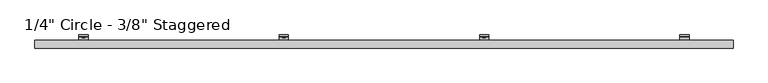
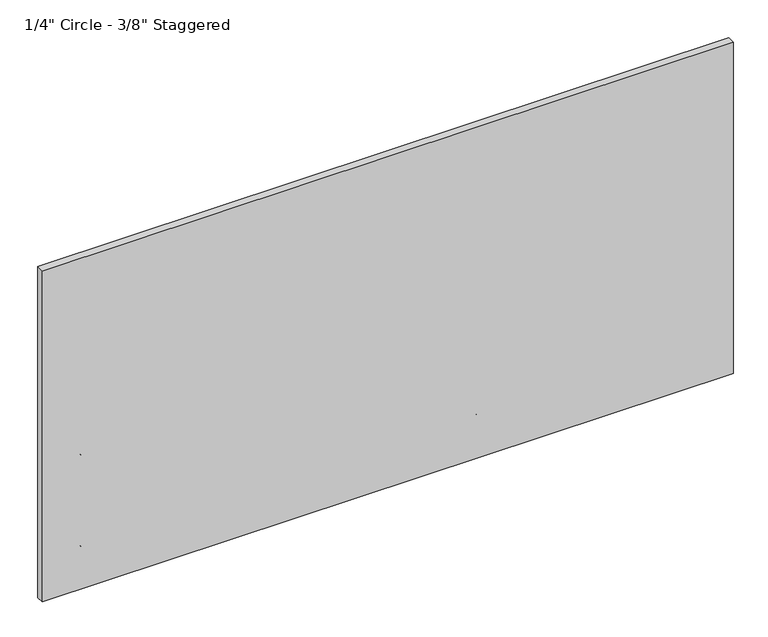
"""IFC4 building model written with IfcOpenShell, lengths in millimetres: plate geometry."""

from ifc_helpers import new_model, si_unit, point, frame, frame_2d, origin, place, context, project, spatial, polyline, circle_curve, trimmed, segment, composite_curve, outline, extrude, source, transform, mapped, element, save
from ifc_brep_helpers import plane_surface, cylinder_surface, revolved_surface, advanced_brep


def plate_0a6a2763(model_context):
    return source(origin(), model_context, "Body", "SolidModel", [
        advanced_brep(
        [(1236.096202, -47.625, 561.2468868), (1236.096202, -51.2819443, 553.5848544), (1236.096202, -89.5163624, 526.8128266), (1236.096202, -92.9330442, 530.2295084), (1236.096202, -54.3526876, 557.2437649), (1236.096202, -52.4002, 561.2469577), (1236.096202, -52.4002, 595.439572), (1236.096202, -47.625, 595.439572), (1274.196202, -47.625, 561.2468868), (1274.196202, -47.625, 595.439572), (1274.196202, -52.4002, 595.439572), (1274.196202, -52.4002, 561.2469577), (1274.196202, -54.3526876, 557.2437649), (1274.196202, -92.9330442, 530.2295084), (1274.196202, -89.5163624, 526.8128266), (1274.196202, -51.2819443, 553.5848544), (1261.8873909, -52.4002, 581.3943558), (1261.8873909, -52.4002, 575.0443558), (1245.6595307, -52.4002, 575.0443558), (1245.6595307, -52.4002, 581.3943558), (1261.8873909, -47.625, 575.0443558), (1261.8873909, -47.625, 581.3943558), (1245.6595307, -47.625, 581.3943558), (1245.6595307, -47.625, 575.0443558)],
        [
            (0, 1, circle_curve(frame((1236.096202, -57.4802202, 561.2468868), z_axis=(-1.0, 0.0, 0.0), x_axis=(0.0, -1.0, 0.0)), 9.8552202)),
            (1, 2),
            (2, 3),
            (3, 4),
            (4, 5, circle_curve(frame((1236.096202, -57.4803246, 561.2469577), z_axis=(1.0, 0.0, 0.0), x_axis=(0.0, -1.0, 0.0)), 5.0801246)),
            (5, 6),
            (6, 7),
            (7, 0),
            (8, 9),
            (9, 10),
            (10, 11),
            (11, 12, circle_curve(frame((1274.196202, -57.4803246, 561.2469577), z_axis=(-1.0, 0.0, 0.0), x_axis=(0.0, -1.0, 0.0)), 5.0801246)),
            (12, 13),
            (13, 14),
            (14, 15),
            (15, 8, circle_curve(frame((1274.196202, -57.4802202, 561.2468868), z_axis=(1.0, 0.0, 0.0), x_axis=(0.0, -1.0, 0.0)), 9.8552202)),
            (4, 12),
            (11, 5),
            (10, 6),
            (16, 17, circle_curve(frame((1261.8873909, -52.4002, 578.2193558), z_axis=(0.0, 1.0, 0.0), x_axis=(0.0, 0.0, -1.0)), 3.175)),
            (17, 18),
            (18, 19, circle_curve(frame((1245.6595307, -52.4002, 578.2193558), z_axis=(0.0, 1.0, 0.0), x_axis=(0.0, 0.0, -1.0)), 3.175)),
            (19, 16),
            (9, 7),
            (8, 0),
            (20, 21, circle_curve(frame((1261.8873909, -47.625, 578.2193558), z_axis=(0.0, -1.0, 0.0), x_axis=(0.0, 0.0, -1.0)), 3.175)),
            (21, 22),
            (22, 23, circle_curve(frame((1245.6595307, -47.625, 578.2193558), z_axis=(0.0, -1.0, 0.0), x_axis=(0.0, 0.0, -1.0)), 3.175)),
            (23, 20),
            (15, 1),
            (20, 17),
            (16, 21),
            (19, 22),
            (18, 23),
            (14, 2),
            (13, 3),
        ],
        [
            plane_surface(frame((1236.096202, -67.3354404, 561.2468868), z_axis=(-1.0, 0.0, 0.0), x_axis=(0.0, 0.0, 1.0))),
            plane_surface(frame((1274.196202, -67.3354404, 561.2468868), z_axis=(1.0, 0.0, 0.0), x_axis=(0.0, 0.0, -1.0))),
            revolved_surface(polyline([(1274.196202, -62.5604492, 561.2469577), (1236.096202, -62.5604492, 561.2469577)]), (1274.196202, -57.4803246, 561.2469577), (1.0, 0.0, 0.0)),
            plane_surface(frame((1236.096202, -52.4002, 561.2469577), z_axis=(0.0, -1.0, 0.0), x_axis=(1.0, 0.0, 0.0))),
            plane_surface(frame((1236.096202, -52.4002, 595.439572), z_axis=(0.0, 0.0, 1.0), x_axis=(1.0, 0.0, 0.0))),
            plane_surface(frame((1236.096202, -47.625, 595.439572), z_axis=(0.0, 1.0, 6.99569853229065e-12), x_axis=(1.0, 0.0, 0.0))),
            cylinder_surface(frame((1274.196202, -57.4802202, 561.2468868), z_axis=(-1.0, 0.0, 0.0), x_axis=(0.0, -1.0, 0.0)), 9.8552202),
            revolved_surface(polyline([(1261.8873909, -52.4002, 575.0443558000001), (1261.8873909, -47.625, 575.0443558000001)]), (1261.8873909, -25.6669948, 578.2193558), (0.0, -1.0, 0.0)),
            plane_surface(frame((1261.8873909, -86.677982, 581.3943558), z_axis=(0.0, 0.0, -1.0), x_axis=(0.0, 1.0, 0.0))),
            revolved_surface(polyline([(1245.6595307, -52.4002, 575.0443558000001), (1245.6595307, -47.625, 575.0443558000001)]), (1245.6595307, -25.6669948, 578.2193558), (0.0, -1.0, 0.0)),
            plane_surface(frame((1245.6595307, -86.677982, 575.0443558), z_axis=(-2.7237733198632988e-11, 0.0, 1.0), x_axis=(0.0, 1.0, 0.0))),
            plane_surface(frame((1236.096202, -51.2819443, 553.5848544), z_axis=(0.0, 0.5735764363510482, -0.8191520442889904), x_axis=(1.0, 0.0, 0.0))),
            plane_surface(frame((1236.096202, -89.5163624, 526.8128266), z_axis=(0.0, -0.7071067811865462, -0.7071067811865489), x_axis=(1.0, 0.0, 0.0))),
            plane_surface(frame((1236.096202, -92.9330442, 530.2295084), z_axis=(0.0, -0.5735764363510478, 0.8191520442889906), x_axis=(1.0, 0.0, 0.0))),
        ],
        [
            (0, [[1, 2, 3, 4, 5, 6, 7, 8]]),
            (1, [[9, 10, 11, 12, 13, 14, 15, 16]]),
            (2, [[-5, 17, -12, 18]]),
            (3, [[-6, -18, -11, 19], [20, 21, 22, 23]]),
            (4, [[-7, -19, -10, 24]]),
            (5, [[-8, -24, -9, 25], [26, 27, 28, 29]]),
            (6, [[-1, -25, -16, 30]]),
            (7, [[31, -20, 32, -26]]),
            (8, [[-32, -23, 33, -27]]),
            (9, [[-33, -22, 34, -28]]),
            (10, [[-31, -29, -34, -21]]),
            (11, [[-2, -30, -15, 35]]),
            (12, [[-3, -35, -14, 36]]),
            (13, [[-4, -36, -13, -17]]),
        ],
    ),
        extrude(outline(polyline([(578.3961989, 413.3640708), (574.0504864, 415.873069), (574.0504864, 420.8910656), (578.3961989, 423.4000639), (582.7419114, 420.8910656), (582.7419114, 415.873069), (578.3961989, 413.3640708)])), frame((0.0, -58.7607779, 0.0), z_axis=(0.0, 1.0, 0.0), x_axis=(0.0, 0.0, 1.0)), (0.0, 0.0, 1.0), 11.1357779),
        extrude(outline(composite_curve([segment(trimmed(circle_curve(frame_2d((578.4895059, 418.3820673)), 6.35), [point((578.4895059, 424.7320673))], [point((578.4895059, 412.0320673))], False, "CARTESIAN"), True, "CONTINUOUS"), segment(trimmed(circle_curve(frame_2d((578.4895059, 418.3820673)), 6.35), [point((578.4895059, 412.0320673))], [point((578.4895059, 424.7320673))], False, "CARTESIAN"), True, "CONTINUOUS")], self_intersect=False)), frame((0.0, -57.0817743, 0.0), z_axis=(0.0, 1.0, 0.0), x_axis=(0.0, 0.0, 1.0)), (0.0, 0.0, 1.0), 9.4567743),
        advanced_brep(
        [(399.3320673, -47.625, 561.2468868), (399.3320673, -51.2819443, 553.5848544), (399.3320673, -89.5163624, 526.8128266), (399.3320673, -92.9330442, 530.2295084), (399.3320673, -54.3526876, 557.2437649), (399.3320673, -52.4002, 561.2469577), (399.3320673, -52.4002, 595.439572), (399.3320673, -47.625, 595.439572), (437.4320673, -47.625, 561.2468868), (437.4320673, -47.625, 595.439572), (437.4320673, -52.4002, 595.439572), (437.4320673, -52.4002, 561.2469577), (437.4320673, -54.3526876, 557.2437649), (437.4320673, -92.9330442, 530.2295084), (437.4320673, -89.5163624, 526.8128266), (437.4320673, -51.2819443, 553.5848544), (425.1232562, -52.4002, 581.3943558), (425.1232562, -52.4002, 575.0443558), (408.895396, -52.4002, 575.0443558), (408.895396, -52.4002, 581.3943558), (425.1232562, -47.625, 575.0443558), (425.1232562, -47.625, 581.3943558), (408.895396, -47.625, 581.3943558), (408.895396, -47.625, 575.0443558)],
        [
            (0, 1, circle_curve(frame((399.3320673, -57.4802202, 561.2468868), z_axis=(-1.0, 0.0, 0.0), x_axis=(0.0, -1.0, 0.0)), 9.8552202)),
            (1, 2),
            (2, 3),
            (3, 4),
            (4, 5, circle_curve(frame((399.3320673, -57.4803246, 561.2469577), z_axis=(1.0, 0.0, 0.0), x_axis=(0.0, -1.0, 0.0)), 5.0801246)),
            (5, 6),
            (6, 7),
            (7, 0),
            (8, 9),
            (9, 10),
            (10, 11),
            (11, 12, circle_curve(frame((437.4320673, -57.4803246, 561.2469577), z_axis=(-1.0, 0.0, 0.0), x_axis=(0.0, -1.0, 0.0)), 5.0801246)),
            (12, 13),
            (13, 14),
            (14, 15),
            (15, 8, circle_curve(frame((437.4320673, -57.4802202, 561.2468868), z_axis=(1.0, 0.0, 0.0), x_axis=(0.0, -1.0, 0.0)), 9.8552202)),
            (4, 12),
            (11, 5),
            (10, 6),
            (16, 17, circle_curve(frame((425.1232562, -52.4002, 578.2193558), z_axis=(0.0, 1.0, 0.0), x_axis=(0.0, 0.0, -1.0)), 3.175)),
            (17, 18),
            (18, 19, circle_curve(frame((408.895396, -52.4002, 578.2193558), z_axis=(0.0, 1.0, 0.0), x_axis=(0.0, 0.0, -1.0)), 3.175)),
            (19, 16),
            (9, 7),
            (8, 0),
            (20, 21, circle_curve(frame((425.1232562, -47.625, 578.2193558), z_axis=(0.0, -1.0, 0.0), x_axis=(0.0, 0.0, -1.0)), 3.175)),
            (21, 22),
            (22, 23, circle_curve(frame((408.895396, -47.625, 578.2193558), z_axis=(0.0, -1.0, 0.0), x_axis=(0.0, 0.0, -1.0)), 3.175)),
            (23, 20),
            (15, 1),
            (20, 17),
            (16, 21),
            (19, 22),
            (18, 23),
            (14, 2),
            (13, 3),
        ],
        [
            plane_surface(frame((399.3320673, -67.3354404, 561.2468868), z_axis=(-1.0, 0.0, 0.0), x_axis=(0.0, 0.0, 1.0))),
            plane_surface(frame((437.4320673, -67.3354404, 561.2468868), z_axis=(1.0, 0.0, 0.0), x_axis=(0.0, 0.0, -1.0))),
            revolved_surface(polyline([(437.4320673, -62.5604492, 561.2469577), (399.3320673, -62.5604492, 561.2469577)]), (437.4320673, -57.4803246, 561.2469577), (1.0, 0.0, 0.0)),
            plane_surface(frame((399.3320673, -52.4002, 561.2469577), z_axis=(0.0, -1.0, 0.0), x_axis=(1.0, 0.0, 0.0))),
            plane_surface(frame((399.3320673, -52.4002, 595.439572), z_axis=(0.0, 0.0, 1.0), x_axis=(1.0, 0.0, 0.0))),
            plane_surface(frame((399.3320673, -47.625, 595.439572), z_axis=(0.0, 1.0, 6.99569853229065e-12), x_axis=(1.0, 0.0, 0.0))),
            cylinder_surface(frame((437.4320673, -57.4802202, 561.2468868), z_axis=(-1.0, 0.0, 0.0), x_axis=(0.0, -1.0, 0.0)), 9.8552202),
            revolved_surface(polyline([(425.1232562, -52.4002, 575.0443558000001), (425.1232562, -47.625, 575.0443558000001)]), (425.1232562, -25.6669948, 578.2193558), (0.0, -1.0, 0.0)),
            plane_surface(frame((425.1232562, -86.677982, 581.3943558), z_axis=(0.0, 0.0, -1.0), x_axis=(0.0, 1.0, 0.0))),
            revolved_surface(polyline([(408.895396, -52.4002, 575.0443558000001), (408.895396, -47.625, 575.0443558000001)]), (408.895396, -25.6669948, 578.2193558), (0.0, -1.0, 0.0)),
            plane_surface(frame((408.895396, -86.677982, 575.0443558), z_axis=(-2.7237733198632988e-11, 0.0, 1.0), x_axis=(0.0, 1.0, 0.0))),
            plane_surface(frame((399.3320673, -51.2819443, 553.5848544), z_axis=(0.0, 0.5735764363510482, -0.8191520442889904), x_axis=(1.0, 0.0, 0.0))),
            plane_surface(frame((399.3320673, -89.5163624, 526.8128266), z_axis=(0.0, -0.7071067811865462, -0.7071067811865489), x_axis=(1.0, 0.0, 0.0))),
            plane_surface(frame((399.3320673, -92.9330442, 530.2295084), z_axis=(0.0, -0.5735764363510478, 0.8191520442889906), x_axis=(1.0, 0.0, 0.0))),
        ],
        [
            (0, [[1, 2, 3, 4, 5, 6, 7, 8]]),
            (1, [[9, 10, 11, 12, 13, 14, 15, 16]]),
            (2, [[-5, 17, -12, 18]]),
            (3, [[-6, -18, -11, 19], [20, 21, 22, 23]]),
            (4, [[-7, -19, -10, 24]]),
            (5, [[-8, -24, -9, 25], [26, 27, 28, 29]]),
            (6, [[-1, -25, -16, 30]]),
            (7, [[31, -20, 32, -26]]),
            (8, [[-32, -23, 33, -27]]),
            (9, [[-33, -22, 34, -28]]),
            (10, [[-31, -29, -34, -21]]),
            (11, [[-2, -30, -15, 35]]),
            (12, [[-3, -35, -14, 36]]),
            (13, [[-4, -36, -13, -17]]),
        ],
    ),
        extrude(outline(polyline([(578.3961989, -423.4000639), (574.0504864, -420.8910656), (574.0504864, -415.873069), (578.3961989, -413.3640708), (582.7419114, -415.873069), (582.7419114, -420.8910656), (578.3961989, -423.4000639)])), frame((0.0, -58.7607779, 0.0), z_axis=(0.0, 1.0, 0.0), x_axis=(0.0, 0.0, 1.0)), (0.0, 0.0, 1.0), 11.1357779),
        extrude(outline(composite_curve([segment(trimmed(circle_curve(frame_2d((578.4895059, -418.3820673)), 6.35), [point((578.4895059, -412.0320673))], [point((578.4895059, -424.7320673))], False, "CARTESIAN"), True, "CONTINUOUS"), segment(trimmed(circle_curve(frame_2d((578.4895059, -418.3820673)), 6.35), [point((578.4895059, -424.7320673))], [point((578.4895059, -412.0320673))], False, "CARTESIAN"), True, "CONTINUOUS")], self_intersect=False)), frame((0.0, -57.0817743, 0.0), z_axis=(0.0, 1.0, 0.0), x_axis=(0.0, 0.0, 1.0)), (0.0, 0.0, 1.0), 9.4567743),
        advanced_brep(
        [(-437.4320673, -47.625, 561.2468868), (-437.4320673, -51.2819443, 553.5848544), (-437.4320673, -89.5163624, 526.8128266), (-437.4320673, -92.9330442, 530.2295084), (-437.4320673, -54.3526876, 557.2437649), (-437.4320673, -52.4002, 561.2469577), (-437.4320673, -52.4002, 595.439572), (-437.4320673, -47.625, 595.439572), (-399.3320673, -47.625, 561.2468868), (-399.3320673, -47.625, 595.439572), (-399.3320673, -52.4002, 595.439572), (-399.3320673, -52.4002, 561.2469577), (-399.3320673, -54.3526876, 557.2437649), (-399.3320673, -92.9330442, 530.2295084), (-399.3320673, -89.5163624, 526.8128266), (-399.3320673, -51.2819443, 553.5848544), (-411.6408784, -52.4002, 581.3943558), (-411.6408784, -52.4002, 575.0443558), (-427.8687386, -52.4002, 575.0443558), (-427.8687386, -52.4002, 581.3943558), (-411.6408784, -47.625, 575.0443558), (-411.6408784, -47.625, 581.3943558), (-427.8687386, -47.625, 581.3943558), (-427.8687386, -47.625, 575.0443558)],
        [
            (0, 1, circle_curve(frame((-437.4320673, -57.4802202, 561.2468868), z_axis=(-1.0, 0.0, 0.0), x_axis=(0.0, -1.0, 0.0)), 9.8552202)),
            (1, 2),
            (2, 3),
            (3, 4),
            (4, 5, circle_curve(frame((-437.4320673, -57.4803246, 561.2469577), z_axis=(1.0, 0.0, 0.0), x_axis=(0.0, -1.0, 0.0)), 5.0801246)),
            (5, 6),
            (6, 7),
            (7, 0),
            (8, 9),
            (9, 10),
            (10, 11),
            (11, 12, circle_curve(frame((-399.3320673, -57.4803246, 561.2469577), z_axis=(-1.0, 0.0, 0.0), x_axis=(0.0, -1.0, 0.0)), 5.0801246)),
            (12, 13),
            (13, 14),
            (14, 15),
            (15, 8, circle_curve(frame((-399.3320673, -57.4802202, 561.2468868), z_axis=(1.0, 0.0, 0.0), x_axis=(0.0, -1.0, 0.0)), 9.8552202)),
            (4, 12),
            (11, 5),
            (10, 6),
            (16, 17, circle_curve(frame((-411.6408784, -52.4002, 578.2193558), z_axis=(0.0, 1.0, 0.0), x_axis=(0.0, 0.0, -1.0)), 3.175)),
            (17, 18),
            (18, 19, circle_curve(frame((-427.8687386, -52.4002, 578.2193558), z_axis=(0.0, 1.0, 0.0), x_axis=(0.0, 0.0, -1.0)), 3.175)),
            (19, 16),
            (9, 7),
            (8, 0),
            (20, 21, circle_curve(frame((-411.6408784, -47.625, 578.2193558), z_axis=(0.0, -1.0, 0.0), x_axis=(0.0, 0.0, -1.0)), 3.175)),
            (21, 22),
            (22, 23, circle_curve(frame((-427.8687386, -47.625, 578.2193558), z_axis=(0.0, -1.0, 0.0), x_axis=(0.0, 0.0, -1.0)), 3.175)),
            (23, 20),
            (15, 1),
            (20, 17),
            (16, 21),
            (19, 22),
            (18, 23),
            (14, 2),
            (13, 3),
        ],
        [
            plane_surface(frame((-437.4320673, -67.3354404, 561.2468868), z_axis=(-1.0, 0.0, 0.0), x_axis=(0.0, 0.0, 1.0))),
            plane_surface(frame((-399.3320673, -67.3354404, 561.2468868), z_axis=(1.0, 0.0, 0.0), x_axis=(0.0, 0.0, -1.0))),
            revolved_surface(polyline([(-399.3320673, -62.5604492, 561.2469577), (-437.4320673, -62.5604492, 561.2469577)]), (-399.3320673, -57.4803246, 561.2469577), (1.0, 0.0, 0.0)),
            plane_surface(frame((-437.4320673, -52.4002, 561.2469577), z_axis=(0.0, -1.0, 0.0), x_axis=(1.0, 0.0, 0.0))),
            plane_surface(frame((-437.4320673, -52.4002, 595.439572), z_axis=(0.0, 0.0, 1.0), x_axis=(1.0, 0.0, 0.0))),
            plane_surface(frame((-437.4320673, -47.625, 595.439572), z_axis=(0.0, 1.0, 6.99569853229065e-12), x_axis=(1.0, 0.0, 0.0))),
            cylinder_surface(frame((-399.3320673, -57.4802202, 561.2468868), z_axis=(-1.0, 0.0, 0.0), x_axis=(0.0, -1.0, 0.0)), 9.8552202),
            revolved_surface(polyline([(-411.6408784, -52.4002, 575.0443558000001), (-411.6408784, -47.625, 575.0443558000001)]), (-411.6408784, -25.6669948, 578.2193558), (0.0, -1.0, 0.0)),
            plane_surface(frame((-411.6408784, -86.677982, 581.3943558), z_axis=(0.0, 0.0, -1.0), x_axis=(0.0, 1.0, 0.0))),
            revolved_surface(polyline([(-427.8687386, -52.4002, 575.0443558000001), (-427.8687386, -47.625, 575.0443558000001)]), (-427.8687386, -25.6669948, 578.2193558), (0.0, -1.0, 0.0)),
            plane_surface(frame((-427.8687386, -86.677982, 575.0443558), z_axis=(-2.7237733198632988e-11, 0.0, 1.0), x_axis=(0.0, 1.0, 0.0))),
            plane_surface(frame((-437.4320673, -51.2819443, 553.5848544), z_axis=(0.0, 0.5735764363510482, -0.8191520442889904), x_axis=(1.0, 0.0, 0.0))),
            plane_surface(frame((-437.4320673, -89.5163624, 526.8128266), z_axis=(0.0, -0.7071067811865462, -0.7071067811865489), x_axis=(1.0, 0.0, 0.0))),
            plane_surface(frame((-437.4320673, -92.9330442, 530.2295084), z_axis=(0.0, -0.5735764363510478, 0.8191520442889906), x_axis=(1.0, 0.0, 0.0))),
        ],
        [
            (0, [[1, 2, 3, 4, 5, 6, 7, 8]]),
            (1, [[9, 10, 11, 12, 13, 14, 15, 16]]),
            (2, [[-5, 17, -12, 18]]),
            (3, [[-6, -18, -11, 19], [20, 21, 22, 23]]),
            (4, [[-7, -19, -10, 24]]),
            (5, [[-8, -24, -9, 25], [26, 27, 28, 29]]),
            (6, [[-1, -25, -16, 30]]),
            (7, [[31, -20, 32, -26]]),
            (8, [[-32, -23, 33, -27]]),
            (9, [[-33, -22, 34, -28]]),
            (10, [[-31, -29, -34, -21]]),
            (11, [[-2, -30, -15, 35]]),
            (12, [[-3, -35, -14, 36]]),
            (13, [[-4, -36, -13, -17]]),
        ],
    ),
        extrude(outline(polyline([(578.3961989, -1260.1641986), (574.0504864, -1257.6552003), (574.0504864, -1252.6372037), (578.3961989, -1250.1282054), (582.7419114, -1252.6372037), (582.7419114, -1257.6552003), (578.3961989, -1260.1641986)])), frame((0.0, -58.7607779, 0.0), z_axis=(0.0, 1.0, 0.0), x_axis=(0.0, 0.0, 1.0)), (0.0, 0.0, 1.0), 11.1357779),
        extrude(outline(composite_curve([segment(trimmed(circle_curve(frame_2d((578.4895059, -1255.146202)), 6.35), [point((578.4895059, -1248.796202))], [point((578.4895059, -1261.496202))], False, "CARTESIAN"), True, "CONTINUOUS"), segment(trimmed(circle_curve(frame_2d((578.4895059, -1255.146202)), 6.35), [point((578.4895059, -1261.496202))], [point((578.4895059, -1248.796202))], False, "CARTESIAN"), True, "CONTINUOUS")], self_intersect=False)), frame((0.0, -57.0817743, 0.0), z_axis=(0.0, 1.0, 0.0), x_axis=(0.0, 0.0, 1.0)), (0.0, 0.0, 1.0), 9.4567743),
        advanced_brep(
        [(-1274.196202, -47.625, 561.2468868), (-1274.196202, -51.2819443, 553.5848544), (-1274.196202, -89.5163624, 526.8128266), (-1274.196202, -92.9330442, 530.2295084), (-1274.196202, -54.3526876, 557.2437649), (-1274.196202, -52.4002, 561.2469577), (-1274.196202, -52.4002, 595.439572), (-1274.196202, -47.625, 595.439572), (-1236.096202, -47.625, 561.2468868), (-1236.096202, -47.625, 595.439572), (-1236.096202, -52.4002, 595.439572), (-1236.096202, -52.4002, 561.2469577), (-1236.096202, -54.3526876, 557.2437649), (-1236.096202, -92.9330442, 530.2295084), (-1236.096202, -89.5163624, 526.8128266), (-1236.096202, -51.2819443, 553.5848544), (-1248.4050131, -52.4002, 581.3943558), (-1248.4050131, -52.4002, 575.0443558), (-1264.6328733, -52.4002, 575.0443558), (-1264.6328733, -52.4002, 581.3943558), (-1248.4050131, -47.625, 575.0443558), (-1248.4050131, -47.625, 581.3943558), (-1264.6328733, -47.625, 581.3943558), (-1264.6328733, -47.625, 575.0443558)],
        [
            (0, 1, circle_curve(frame((-1274.196202, -57.4802202, 561.2468868), z_axis=(-1.0, 0.0, 0.0), x_axis=(0.0, -1.0, 0.0)), 9.8552202)),
            (1, 2),
            (2, 3),
            (3, 4),
            (4, 5, circle_curve(frame((-1274.196202, -57.4803246, 561.2469577), z_axis=(1.0, 0.0, 0.0), x_axis=(0.0, -1.0, 0.0)), 5.0801246)),
            (5, 6),
            (6, 7),
            (7, 0),
            (8, 9),
            (9, 10),
            (10, 11),
            (11, 12, circle_curve(frame((-1236.096202, -57.4803246, 561.2469577), z_axis=(-1.0, 0.0, 0.0), x_axis=(0.0, -1.0, 0.0)), 5.0801246)),
            (12, 13),
            (13, 14),
            (14, 15),
            (15, 8, circle_curve(frame((-1236.096202, -57.4802202, 561.2468868), z_axis=(1.0, 0.0, 0.0), x_axis=(0.0, -1.0, 0.0)), 9.8552202)),
            (4, 12),
            (11, 5),
            (10, 6),
            (16, 17, circle_curve(frame((-1248.4050131, -52.4002, 578.2193558), z_axis=(0.0, 1.0, 0.0), x_axis=(0.0, 0.0, -1.0)), 3.175)),
            (17, 18),
            (18, 19, circle_curve(frame((-1264.6328733, -52.4002, 578.2193558), z_axis=(0.0, 1.0, 0.0), x_axis=(0.0, 0.0, -1.0)), 3.175)),
            (19, 16),
            (9, 7),
            (8, 0),
            (20, 21, circle_curve(frame((-1248.4050131, -47.625, 578.2193558), z_axis=(0.0, -1.0, 0.0), x_axis=(0.0, 0.0, -1.0)), 3.175)),
            (21, 22),
            (22, 23, circle_curve(frame((-1264.6328733, -47.625, 578.2193558), z_axis=(0.0, -1.0, 0.0), x_axis=(0.0, 0.0, -1.0)), 3.175)),
            (23, 20),
            (15, 1),
            (20, 17),
            (16, 21),
            (19, 22),
            (18, 23),
            (14, 2),
            (13, 3),
        ],
        [
            plane_surface(frame((-1274.196202, -67.3354404, 561.2468868), z_axis=(-1.0, 0.0, 0.0), x_axis=(0.0, 0.0, 1.0))),
            plane_surface(frame((-1236.096202, -67.3354404, 561.2468868), z_axis=(1.0, 0.0, 0.0), x_axis=(0.0, 0.0, -1.0))),
            revolved_surface(polyline([(-1236.096202, -62.5604492, 561.2469577), (-1274.196202, -62.5604492, 561.2469577)]), (-1236.096202, -57.4803246, 561.2469577), (1.0, 0.0, 0.0)),
            plane_surface(frame((-1274.196202, -52.4002, 561.2469577), z_axis=(0.0, -1.0, 0.0), x_axis=(1.0, 0.0, 0.0))),
            plane_surface(frame((-1274.196202, -52.4002, 595.439572), z_axis=(0.0, 0.0, 1.0), x_axis=(1.0, 0.0, 0.0))),
            plane_surface(frame((-1274.196202, -47.625, 595.439572), z_axis=(0.0, 1.0, 6.99569853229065e-12), x_axis=(1.0, 0.0, 0.0))),
            cylinder_surface(frame((-1236.096202, -57.4802202, 561.2468868), z_axis=(-1.0, 0.0, 0.0), x_axis=(0.0, -1.0, 0.0)), 9.8552202),
            revolved_surface(polyline([(-1248.4050131, -52.4002, 575.0443558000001), (-1248.4050131, -47.625, 575.0443558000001)]), (-1248.4050131, -25.6669948, 578.2193558), (0.0, -1.0, 0.0)),
            plane_surface(frame((-1248.4050131, -86.677982, 581.3943558), z_axis=(0.0, 0.0, -1.0), x_axis=(0.0, 1.0, 0.0))),
            revolved_surface(polyline([(-1264.6328733, -52.4002, 575.0443558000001), (-1264.6328733, -47.625, 575.0443558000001)]), (-1264.6328733, -25.6669948, 578.2193558), (0.0, -1.0, 0.0)),
            plane_surface(frame((-1264.6328733, -86.677982, 575.0443558), z_axis=(-2.7237733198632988e-11, 0.0, 1.0), x_axis=(0.0, 1.0, 0.0))),
            plane_surface(frame((-1274.196202, -51.2819443, 553.5848544), z_axis=(0.0, 0.5735764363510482, -0.8191520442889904), x_axis=(1.0, 0.0, 0.0))),
            plane_surface(frame((-1274.196202, -89.5163624, 526.8128266), z_axis=(0.0, -0.7071067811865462, -0.7071067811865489), x_axis=(1.0, 0.0, 0.0))),
            plane_surface(frame((-1274.196202, -92.9330442, 530.2295084), z_axis=(0.0, -0.5735764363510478, 0.8191520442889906), x_axis=(1.0, 0.0, 0.0))),
        ],
        [
            (0, [[1, 2, 3, 4, 5, 6, 7, 8]]),
            (1, [[9, 10, 11, 12, 13, 14, 15, 16]]),
            (2, [[-5, 17, -12, 18]]),
            (3, [[-6, -18, -11, 19], [20, 21, 22, 23]]),
            (4, [[-7, -19, -10, 24]]),
            (5, [[-8, -24, -9, 25], [26, 27, 28, 29]]),
            (6, [[-1, -25, -16, 30]]),
            (7, [[31, -20, 32, -26]]),
            (8, [[-32, -23, 33, -27]]),
            (9, [[-33, -22, 34, -28]]),
            (10, [[-31, -29, -34, -21]]),
            (11, [[-2, -30, -15, 35]]),
            (12, [[-3, -35, -14, 36]]),
            (13, [[-4, -36, -13, -17]]),
        ],
    ),
        extrude(outline(polyline([(169.8795323, 1250.1282054), (165.5338197, 1252.6372037), (165.5338197, 1257.6552003), (169.8795323, 1260.1641986), (174.2252448, 1257.6552003), (174.2252448, 1252.6372037), (169.8795323, 1250.1282054)])), frame((0.0, -58.7607779, 0.0), z_axis=(0.0, 1.0, 0.0), x_axis=(0.0, 0.0, 1.0)), (0.0, 0.0, 1.0), 11.1357779),
        extrude(outline(composite_curve([segment(trimmed(circle_curve(frame_2d((169.9728392, 1255.146202)), 6.35), [point((169.9728392, 1261.496202))], [point((169.9728392, 1248.796202))], False, "CARTESIAN"), True, "CONTINUOUS"), segment(trimmed(circle_curve(frame_2d((169.9728392, 1255.146202)), 6.35), [point((169.9728392, 1248.796202))], [point((169.9728392, 1261.496202))], False, "CARTESIAN"), True, "CONTINUOUS")], self_intersect=False)), frame((0.0, -57.0817743, 0.0), z_axis=(0.0, 1.0, 0.0), x_axis=(0.0, 0.0, 1.0)), (0.0, 0.0, 1.0), 9.4567743),
        advanced_brep(
        [(1236.096202, -47.625, 152.7302202), (1236.096202, -51.2819443, 145.0681877), (1236.096202, -89.5163624, 118.29616), (1236.096202, -92.9330442, 121.7128418), (1236.096202, -54.3526876, 148.7270983), (1236.096202, -52.4002, 152.7302911), (1236.096202, -52.4002, 186.9229053), (1236.096202, -47.625, 186.9229053), (1274.196202, -47.625, 152.7302202), (1274.196202, -47.625, 186.9229053), (1274.196202, -52.4002, 186.9229053), (1274.196202, -52.4002, 152.7302911), (1274.196202, -54.3526876, 148.7270983), (1274.196202, -92.9330442, 121.7128418), (1274.196202, -89.5163624, 118.29616), (1274.196202, -51.2819443, 145.0681877), (1261.8873909, -52.4002, 172.8776891), (1261.8873909, -52.4002, 166.5276891), (1245.6595307, -52.4002, 166.5276891), (1245.6595307, -52.4002, 172.8776891), (1261.8873909, -47.625, 166.5276891), (1261.8873909, -47.625, 172.8776891), (1245.6595307, -47.625, 172.8776891), (1245.6595307, -47.625, 166.5276891)],
        [
            (0, 1, circle_curve(frame((1236.096202, -57.4802202, 152.7302202), z_axis=(-1.0, 0.0, 0.0), x_axis=(0.0, -1.0, 0.0)), 9.8552202)),
            (1, 2),
            (2, 3),
            (3, 4),
            (4, 5, circle_curve(frame((1236.096202, -57.4803246, 152.7302911), z_axis=(1.0, 0.0, 0.0), x_axis=(0.0, -1.0, 0.0)), 5.0801246)),
            (5, 6),
            (6, 7),
            (7, 0),
            (8, 9),
            (9, 10),
            (10, 11),
            (11, 12, circle_curve(frame((1274.196202, -57.4803246, 152.7302911), z_axis=(-1.0, 0.0, 0.0), x_axis=(0.0, -1.0, 0.0)), 5.0801246)),
            (12, 13),
            (13, 14),
            (14, 15),
            (15, 8, circle_curve(frame((1274.196202, -57.4802202, 152.7302202), z_axis=(1.0, 0.0, 0.0), x_axis=(0.0, -1.0, 0.0)), 9.8552202)),
            (4, 12),
            (11, 5),
            (10, 6),
            (16, 17, circle_curve(frame((1261.8873909, -52.4002, 169.7026891), z_axis=(0.0, 1.0, 0.0), x_axis=(0.0, 0.0, -1.0)), 3.175)),
            (17, 18),
            (18, 19, circle_curve(frame((1245.6595307, -52.4002, 169.7026891), z_axis=(0.0, 1.0, 0.0), x_axis=(0.0, 0.0, -1.0)), 3.175)),
            (19, 16),
            (9, 7),
            (8, 0),
            (20, 21, circle_curve(frame((1261.8873909, -47.625, 169.7026891), z_axis=(0.0, -1.0, 0.0), x_axis=(0.0, 0.0, -1.0)), 3.175)),
            (21, 22),
            (22, 23, circle_curve(frame((1245.6595307, -47.625, 169.7026891), z_axis=(0.0, -1.0, 0.0), x_axis=(0.0, 0.0, -1.0)), 3.175)),
            (23, 20),
            (15, 1),
            (20, 17),
            (16, 21),
            (19, 22),
            (18, 23),
            (14, 2),
            (13, 3),
        ],
        [
            plane_surface(frame((1236.096202, -67.3354404, 152.7302202), z_axis=(-1.0, 0.0, 0.0), x_axis=(0.0, 0.0, 1.0))),
            plane_surface(frame((1274.196202, -67.3354404, 152.7302202), z_axis=(1.0, 0.0, 0.0), x_axis=(0.0, 0.0, -1.0))),
            revolved_surface(polyline([(1274.196202, -62.5604492, 152.7302911), (1236.096202, -62.5604492, 152.7302911)]), (1274.196202, -57.4803246, 152.7302911), (1.0, 0.0, 0.0)),
            plane_surface(frame((1236.096202, -52.4002, 152.7302911), z_axis=(0.0, -1.0, 0.0), x_axis=(1.0, 0.0, 0.0))),
            plane_surface(frame((1236.096202, -52.4002, 186.9229053), z_axis=(0.0, 0.0, 1.0), x_axis=(1.0, 0.0, 0.0))),
            plane_surface(frame((1236.096202, -47.625, 186.9229053), z_axis=(0.0, 1.0, 6.99569853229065e-12), x_axis=(1.0, 0.0, 0.0))),
            cylinder_surface(frame((1274.196202, -57.4802202, 152.7302202), z_axis=(-1.0, 0.0, 0.0), x_axis=(0.0, -1.0, 0.0)), 9.8552202),
            revolved_surface(polyline([(1261.8873909, -52.4002, 166.52768909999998), (1261.8873909, -47.625, 166.52768909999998)]), (1261.8873909, -25.6669948, 169.7026891), (0.0, -1.0, 0.0)),
            plane_surface(frame((1261.8873909, -86.677982, 172.8776891), z_axis=(0.0, 0.0, -1.0), x_axis=(0.0, 1.0, 0.0))),
            revolved_surface(polyline([(1245.6595307, -52.4002, 166.52768909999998), (1245.6595307, -47.625, 166.52768909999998)]), (1245.6595307, -25.6669948, 169.7026891), (0.0, -1.0, 0.0)),
            plane_surface(frame((1245.6595307, -86.677982, 166.5276891), z_axis=(-2.723774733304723e-11, 0.0, 1.0), x_axis=(0.0, 1.0, 0.0))),
            plane_surface(frame((1236.096202, -51.2819443, 145.0681877), z_axis=(0.0, 0.5735764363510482, -0.8191520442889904), x_axis=(1.0, 0.0, 0.0))),
            plane_surface(frame((1236.096202, -89.5163624, 118.29616), z_axis=(0.0, -0.7071067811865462, -0.7071067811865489), x_axis=(1.0, 0.0, 0.0))),
            plane_surface(frame((1236.096202, -92.9330442, 121.7128418), z_axis=(0.0, -0.5735764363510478, 0.8191520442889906), x_axis=(1.0, 0.0, 0.0))),
        ],
        [
            (0, [[1, 2, 3, 4, 5, 6, 7, 8]]),
            (1, [[9, 10, 11, 12, 13, 14, 15, 16]]),
            (2, [[-5, 17, -12, 18]]),
            (3, [[-6, -18, -11, 19], [20, 21, 22, 23]]),
            (4, [[-7, -19, -10, 24]]),
            (5, [[-8, -24, -9, 25], [26, 27, 28, 29]]),
            (6, [[-1, -25, -16, 30]]),
            (7, [[31, -20, 32, -26]]),
            (8, [[-32, -23, 33, -27]]),
            (9, [[-33, -22, 34, -28]]),
            (10, [[-31, -29, -34, -21]]),
            (11, [[-2, -30, -15, 35]]),
            (12, [[-3, -35, -14, 36]]),
            (13, [[-4, -36, -13, -17]]),
        ],
    ),
        extrude(outline(polyline([(169.8795323, 413.3640708), (165.5338197, 415.873069), (165.5338197, 420.8910656), (169.8795323, 423.4000639), (174.2252448, 420.8910656), (174.2252448, 415.873069), (169.8795323, 413.3640708)])), frame((0.0, -58.7607779, 0.0), z_axis=(0.0, 1.0, 0.0), x_axis=(0.0, 0.0, 1.0)), (0.0, 0.0, 1.0), 11.1357779),
        extrude(outline(composite_curve([segment(trimmed(circle_curve(frame_2d((169.9728392, 418.3820673)), 6.35), [point((169.9728392, 424.7320673))], [point((169.9728392, 412.0320673))], False, "CARTESIAN"), True, "CONTINUOUS"), segment(trimmed(circle_curve(frame_2d((169.9728392, 418.3820673)), 6.35), [point((169.9728392, 412.0320673))], [point((169.9728392, 424.7320673))], False, "CARTESIAN"), True, "CONTINUOUS")], self_intersect=False)), frame((0.0, -57.0817743, 0.0), z_axis=(0.0, 1.0, 0.0), x_axis=(0.0, 0.0, 1.0)), (0.0, 0.0, 1.0), 9.4567743),
        advanced_brep(
        [(399.3320673, -47.625, 152.7302202), (399.3320673, -51.2819443, 145.0681877), (399.3320673, -89.5163624, 118.29616), (399.3320673, -92.9330442, 121.7128418), (399.3320673, -54.3526876, 148.7270983), (399.3320673, -52.4002, 152.7302911), (399.3320673, -52.4002, 186.9229053), (399.3320673, -47.625, 186.9229053), (437.4320673, -47.625, 152.7302202), (437.4320673, -47.625, 186.9229053), (437.4320673, -52.4002, 186.9229053), (437.4320673, -52.4002, 152.7302911), (437.4320673, -54.3526876, 148.7270983), (437.4320673, -92.9330442, 121.7128418), (437.4320673, -89.5163624, 118.29616), (437.4320673, -51.2819443, 145.0681877), (425.1232562, -52.4002, 172.8776891), (425.1232562, -52.4002, 166.5276891), (408.895396, -52.4002, 166.5276891), (408.895396, -52.4002, 172.8776891), (425.1232562, -47.625, 166.5276891), (425.1232562, -47.625, 172.8776891), (408.895396, -47.625, 172.8776891), (408.895396, -47.625, 166.5276891)],
        [
            (0, 1, circle_curve(frame((399.3320673, -57.4802202, 152.7302202), z_axis=(-1.0, 0.0, 0.0), x_axis=(0.0, -1.0, 0.0)), 9.8552202)),
            (1, 2),
            (2, 3),
            (3, 4),
            (4, 5, circle_curve(frame((399.3320673, -57.4803246, 152.7302911), z_axis=(1.0, 0.0, 0.0), x_axis=(0.0, -1.0, 0.0)), 5.0801246)),
            (5, 6),
            (6, 7),
            (7, 0),
            (8, 9),
            (9, 10),
            (10, 11),
            (11, 12, circle_curve(frame((437.4320673, -57.4803246, 152.7302911), z_axis=(-1.0, 0.0, 0.0), x_axis=(0.0, -1.0, 0.0)), 5.0801246)),
            (12, 13),
            (13, 14),
            (14, 15),
            (15, 8, circle_curve(frame((437.4320673, -57.4802202, 152.7302202), z_axis=(1.0, 0.0, 0.0), x_axis=(0.0, -1.0, 0.0)), 9.8552202)),
            (4, 12),
            (11, 5),
            (10, 6),
            (16, 17, circle_curve(frame((425.1232562, -52.4002, 169.7026891), z_axis=(0.0, 1.0, 0.0), x_axis=(0.0, 0.0, -1.0)), 3.175)),
            (17, 18),
            (18, 19, circle_curve(frame((408.895396, -52.4002, 169.7026891), z_axis=(0.0, 1.0, 0.0), x_axis=(0.0, 0.0, -1.0)), 3.175)),
            (19, 16),
            (9, 7),
            (8, 0),
            (20, 21, circle_curve(frame((425.1232562, -47.625, 169.7026891), z_axis=(0.0, -1.0, 0.0), x_axis=(0.0, 0.0, -1.0)), 3.175)),
            (21, 22),
            (22, 23, circle_curve(frame((408.895396, -47.625, 169.7026891), z_axis=(0.0, -1.0, 0.0), x_axis=(0.0, 0.0, -1.0)), 3.175)),
            (23, 20),
            (15, 1),
            (20, 17),
            (16, 21),
            (19, 22),
            (18, 23),
            (14, 2),
            (13, 3),
        ],
        [
            plane_surface(frame((399.3320673, -67.3354404, 152.7302202), z_axis=(-1.0, 0.0, 0.0), x_axis=(0.0, 0.0, 1.0))),
            plane_surface(frame((437.4320673, -67.3354404, 152.7302202), z_axis=(1.0, 0.0, 0.0), x_axis=(0.0, 0.0, -1.0))),
            revolved_surface(polyline([(437.4320673, -62.5604492, 152.7302911), (399.3320673, -62.5604492, 152.7302911)]), (437.4320673, -57.4803246, 152.7302911), (1.0, 0.0, 0.0)),
            plane_surface(frame((399.3320673, -52.4002, 152.7302911), z_axis=(0.0, -1.0, 0.0), x_axis=(1.0, 0.0, 0.0))),
            plane_surface(frame((399.3320673, -52.4002, 186.9229053), z_axis=(0.0, 0.0, 1.0), x_axis=(1.0, 0.0, 0.0))),
            plane_surface(frame((399.3320673, -47.625, 186.9229053), z_axis=(0.0, 1.0, 6.99569853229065e-12), x_axis=(1.0, 0.0, 0.0))),
            cylinder_surface(frame((437.4320673, -57.4802202, 152.7302202), z_axis=(-1.0, 0.0, 0.0), x_axis=(0.0, -1.0, 0.0)), 9.8552202),
            revolved_surface(polyline([(425.1232562, -52.4002, 166.52768909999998), (425.1232562, -47.625, 166.52768909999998)]), (425.1232562, -25.6669948, 169.7026891), (0.0, -1.0, 0.0)),
            plane_surface(frame((425.1232562, -86.677982, 172.8776891), z_axis=(0.0, 0.0, -1.0), x_axis=(0.0, 1.0, 0.0))),
            revolved_surface(polyline([(408.895396, -52.4002, 166.52768909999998), (408.895396, -47.625, 166.52768909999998)]), (408.895396, -25.6669948, 169.7026891), (0.0, -1.0, 0.0)),
            plane_surface(frame((408.895396, -86.677982, 166.5276891), z_axis=(-2.723774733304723e-11, 0.0, 1.0), x_axis=(0.0, 1.0, 0.0))),
            plane_surface(frame((399.3320673, -51.2819443, 145.0681877), z_axis=(0.0, 0.5735764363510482, -0.8191520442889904), x_axis=(1.0, 0.0, 0.0))),
            plane_surface(frame((399.3320673, -89.5163624, 118.29616), z_axis=(0.0, -0.7071067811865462, -0.7071067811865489), x_axis=(1.0, 0.0, 0.0))),
            plane_surface(frame((399.3320673, -92.9330442, 121.7128418), z_axis=(0.0, -0.5735764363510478, 0.8191520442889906), x_axis=(1.0, 0.0, 0.0))),
        ],
        [
            (0, [[1, 2, 3, 4, 5, 6, 7, 8]]),
            (1, [[9, 10, 11, 12, 13, 14, 15, 16]]),
            (2, [[-5, 17, -12, 18]]),
            (3, [[-6, -18, -11, 19], [20, 21, 22, 23]]),
            (4, [[-7, -19, -10, 24]]),
            (5, [[-8, -24, -9, 25], [26, 27, 28, 29]]),
            (6, [[-1, -25, -16, 30]]),
            (7, [[31, -20, 32, -26]]),
            (8, [[-32, -23, 33, -27]]),
            (9, [[-33, -22, 34, -28]]),
            (10, [[-31, -29, -34, -21]]),
            (11, [[-2, -30, -15, 35]]),
            (12, [[-3, -35, -14, 36]]),
            (13, [[-4, -36, -13, -17]]),
        ],
    ),
        extrude(outline(polyline([(169.8795323, -423.4000639), (165.5338197, -420.8910656), (165.5338197, -415.873069), (169.8795323, -413.3640708), (174.2252448, -415.873069), (174.2252448, -420.8910656), (169.8795323, -423.4000639)])), frame((0.0, -58.7607779, 0.0), z_axis=(0.0, 1.0, 0.0), x_axis=(0.0, 0.0, 1.0)), (0.0, 0.0, 1.0), 11.1357779),
        extrude(outline(composite_curve([segment(trimmed(circle_curve(frame_2d((169.9728392, -418.3820673)), 6.35), [point((169.9728392, -412.0320673))], [point((169.9728392, -424.7320673))], False, "CARTESIAN"), True, "CONTINUOUS"), segment(trimmed(circle_curve(frame_2d((169.9728392, -418.3820673)), 6.35), [point((169.9728392, -424.7320673))], [point((169.9728392, -412.0320673))], False, "CARTESIAN"), True, "CONTINUOUS")], self_intersect=False)), frame((0.0, -57.0817743, 0.0), z_axis=(0.0, 1.0, 0.0), x_axis=(0.0, 0.0, 1.0)), (0.0, 0.0, 1.0), 9.4567743),
        advanced_brep(
        [(-437.4320673, -47.625, 152.7302202), (-437.4320673, -51.2819443, 145.0681877), (-437.4320673, -89.5163624, 118.29616), (-437.4320673, -92.9330442, 121.7128418), (-437.4320673, -54.3526876, 148.7270983), (-437.4320673, -52.4002, 152.7302911), (-437.4320673, -52.4002, 186.9229053), (-437.4320673, -47.625, 186.9229053), (-399.3320673, -47.625, 152.7302202), (-399.3320673, -47.625, 186.9229053), (-399.3320673, -52.4002, 186.9229053), (-399.3320673, -52.4002, 152.7302911), (-399.3320673, -54.3526876, 148.7270983), (-399.3320673, -92.9330442, 121.7128418), (-399.3320673, -89.5163624, 118.29616), (-399.3320673, -51.2819443, 145.0681877), (-411.6408784, -52.4002, 172.8776891), (-411.6408784, -52.4002, 166.5276891), (-427.8687386, -52.4002, 166.5276891), (-427.8687386, -52.4002, 172.8776891), (-411.6408784, -47.625, 166.5276891), (-411.6408784, -47.625, 172.8776891), (-427.8687386, -47.625, 172.8776891), (-427.8687386, -47.625, 166.5276891)],
        [
            (0, 1, circle_curve(frame((-437.4320673, -57.4802202, 152.7302202), z_axis=(-1.0, 0.0, 0.0), x_axis=(0.0, -1.0, 0.0)), 9.8552202)),
            (1, 2),
            (2, 3),
            (3, 4),
            (4, 5, circle_curve(frame((-437.4320673, -57.4803246, 152.7302911), z_axis=(1.0, 0.0, 0.0), x_axis=(0.0, -1.0, 0.0)), 5.0801246)),
            (5, 6),
            (6, 7),
            (7, 0),
            (8, 9),
            (9, 10),
            (10, 11),
            (11, 12, circle_curve(frame((-399.3320673, -57.4803246, 152.7302911), z_axis=(-1.0, 0.0, 0.0), x_axis=(0.0, -1.0, 0.0)), 5.0801246)),
            (12, 13),
            (13, 14),
            (14, 15),
            (15, 8, circle_curve(frame((-399.3320673, -57.4802202, 152.7302202), z_axis=(1.0, 0.0, 0.0), x_axis=(0.0, -1.0, 0.0)), 9.8552202)),
            (4, 12),
            (11, 5),
            (10, 6),
            (16, 17, circle_curve(frame((-411.6408784, -52.4002, 169.7026891), z_axis=(0.0, 1.0, 0.0), x_axis=(0.0, 0.0, -1.0)), 3.175)),
            (17, 18),
            (18, 19, circle_curve(frame((-427.8687386, -52.4002, 169.7026891), z_axis=(0.0, 1.0, 0.0), x_axis=(0.0, 0.0, -1.0)), 3.175)),
            (19, 16),
            (9, 7),
            (8, 0),
            (20, 21, circle_curve(frame((-411.6408784, -47.625, 169.7026891), z_axis=(0.0, -1.0, 0.0), x_axis=(0.0, 0.0, -1.0)), 3.175)),
            (21, 22),
            (22, 23, circle_curve(frame((-427.8687386, -47.625, 169.7026891), z_axis=(0.0, -1.0, 0.0), x_axis=(0.0, 0.0, -1.0)), 3.175)),
            (23, 20),
            (15, 1),
            (20, 17),
            (16, 21),
            (19, 22),
            (18, 23),
            (14, 2),
            (13, 3),
        ],
        [
            plane_surface(frame((-437.4320673, -67.3354404, 152.7302202), z_axis=(-1.0, 0.0, 0.0), x_axis=(0.0, 0.0, 1.0))),
            plane_surface(frame((-399.3320673, -67.3354404, 152.7302202), z_axis=(1.0, 0.0, 0.0), x_axis=(0.0, 0.0, -1.0))),
            revolved_surface(polyline([(-399.3320673, -62.5604492, 152.7302911), (-437.4320673, -62.5604492, 152.7302911)]), (-399.3320673, -57.4803246, 152.7302911), (1.0, 0.0, 0.0)),
            plane_surface(frame((-437.4320673, -52.4002, 152.7302911), z_axis=(0.0, -1.0, 0.0), x_axis=(1.0, 0.0, 0.0))),
            plane_surface(frame((-437.4320673, -52.4002, 186.9229053), z_axis=(0.0, 0.0, 1.0), x_axis=(1.0, 0.0, 0.0))),
            plane_surface(frame((-437.4320673, -47.625, 186.9229053), z_axis=(0.0, 1.0, 6.99569853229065e-12), x_axis=(1.0, 0.0, 0.0))),
            cylinder_surface(frame((-399.3320673, -57.4802202, 152.7302202), z_axis=(-1.0, 0.0, 0.0), x_axis=(0.0, -1.0, 0.0)), 9.8552202),
            revolved_surface(polyline([(-411.6408784, -52.4002, 166.52768909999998), (-411.6408784, -47.625, 166.52768909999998)]), (-411.6408784, -25.6669948, 169.7026891), (0.0, -1.0, 0.0)),
            plane_surface(frame((-411.6408784, -86.677982, 172.8776891), z_axis=(0.0, 0.0, -1.0), x_axis=(0.0, 1.0, 0.0))),
            revolved_surface(polyline([(-427.8687386, -52.4002, 166.52768909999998), (-427.8687386, -47.625, 166.52768909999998)]), (-427.8687386, -25.6669948, 169.7026891), (0.0, -1.0, 0.0)),
            plane_surface(frame((-427.8687386, -86.677982, 166.5276891), z_axis=(-2.723774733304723e-11, 0.0, 1.0), x_axis=(0.0, 1.0, 0.0))),
            plane_surface(frame((-437.4320673, -51.2819443, 145.0681877), z_axis=(0.0, 0.5735764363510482, -0.8191520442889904), x_axis=(1.0, 0.0, 0.0))),
            plane_surface(frame((-437.4320673, -89.5163624, 118.29616), z_axis=(0.0, -0.7071067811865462, -0.7071067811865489), x_axis=(1.0, 0.0, 0.0))),
            plane_surface(frame((-437.4320673, -92.9330442, 121.7128418), z_axis=(0.0, -0.5735764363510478, 0.8191520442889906), x_axis=(1.0, 0.0, 0.0))),
        ],
        [
            (0, [[1, 2, 3, 4, 5, 6, 7, 8]]),
            (1, [[9, 10, 11, 12, 13, 14, 15, 16]]),
            (2, [[-5, 17, -12, 18]]),
            (3, [[-6, -18, -11, 19], [20, 21, 22, 23]]),
            (4, [[-7, -19, -10, 24]]),
            (5, [[-8, -24, -9, 25], [26, 27, 28, 29]]),
            (6, [[-1, -25, -16, 30]]),
            (7, [[31, -20, 32, -26]]),
            (8, [[-32, -23, 33, -27]]),
            (9, [[-33, -22, 34, -28]]),
            (10, [[-31, -29, -34, -21]]),
            (11, [[-2, -30, -15, 35]]),
            (12, [[-3, -35, -14, 36]]),
            (13, [[-4, -36, -13, -17]]),
        ],
    ),
        extrude(outline(polyline([(169.8795323, -1260.1641986), (165.5338197, -1257.6552003), (165.5338197, -1252.6372037), (169.8795323, -1250.1282054), (174.2252448, -1252.6372037), (174.2252448, -1257.6552003), (169.8795323, -1260.1641986)])), frame((0.0, -58.7607779, 0.0), z_axis=(0.0, 1.0, 0.0), x_axis=(0.0, 0.0, 1.0)), (0.0, 0.0, 1.0), 11.1357779),
        extrude(outline(composite_curve([segment(trimmed(circle_curve(frame_2d((169.9728392, -1255.146202)), 6.35), [point((169.9728392, -1248.796202))], [point((169.9728392, -1261.496202))], False, "CARTESIAN"), True, "CONTINUOUS"), segment(trimmed(circle_curve(frame_2d((169.9728392, -1255.146202)), 6.35), [point((169.9728392, -1261.496202))], [point((169.9728392, -1248.796202))], False, "CARTESIAN"), True, "CONTINUOUS")], self_intersect=False)), frame((0.0, -57.0817743, 0.0), z_axis=(0.0, 1.0, 0.0), x_axis=(0.0, 0.0, 1.0)), (0.0, 0.0, 1.0), 9.4567743),
        advanced_brep(
        [(-1274.196202, -47.625, 152.7302202), (-1274.196202, -51.2819443, 145.0681877), (-1274.196202, -89.5163624, 118.29616), (-1274.196202, -92.9330442, 121.7128418), (-1274.196202, -54.3526876, 148.7270983), (-1274.196202, -52.4002, 152.7302911), (-1274.196202, -52.4002, 186.9229053), (-1274.196202, -47.625, 186.9229053), (-1236.096202, -47.625, 152.7302202), (-1236.096202, -47.625, 186.9229053), (-1236.096202, -52.4002, 186.9229053), (-1236.096202, -52.4002, 152.7302911), (-1236.096202, -54.3526876, 148.7270983), (-1236.096202, -92.9330442, 121.7128418), (-1236.096202, -89.5163624, 118.29616), (-1236.096202, -51.2819443, 145.0681877), (-1248.4050131, -52.4002, 172.8776891), (-1248.4050131, -52.4002, 166.5276891), (-1264.6328733, -52.4002, 166.5276891), (-1264.6328733, -52.4002, 172.8776891), (-1248.4050131, -47.625, 166.5276891), (-1248.4050131, -47.625, 172.8776891), (-1264.6328733, -47.625, 172.8776891), (-1264.6328733, -47.625, 166.5276891)],
        [
            (0, 1, circle_curve(frame((-1274.196202, -57.4802202, 152.7302202), z_axis=(-1.0, 0.0, 0.0), x_axis=(0.0, -1.0, 0.0)), 9.8552202)),
            (1, 2),
            (2, 3),
            (3, 4),
            (4, 5, circle_curve(frame((-1274.196202, -57.4803246, 152.7302911), z_axis=(1.0, 0.0, 0.0), x_axis=(0.0, -1.0, 0.0)), 5.0801246)),
            (5, 6),
            (6, 7),
            (7, 0),
            (8, 9),
            (9, 10),
            (10, 11),
            (11, 12, circle_curve(frame((-1236.096202, -57.4803246, 152.7302911), z_axis=(-1.0, 0.0, 0.0), x_axis=(0.0, -1.0, 0.0)), 5.0801246)),
            (12, 13),
            (13, 14),
            (14, 15),
            (15, 8, circle_curve(frame((-1236.096202, -57.4802202, 152.7302202), z_axis=(1.0, 0.0, 0.0), x_axis=(0.0, -1.0, 0.0)), 9.8552202)),
            (4, 12),
            (11, 5),
            (10, 6),
            (16, 17, circle_curve(frame((-1248.4050131, -52.4002, 169.7026891), z_axis=(0.0, 1.0, 0.0), x_axis=(0.0, 0.0, -1.0)), 3.175)),
            (17, 18),
            (18, 19, circle_curve(frame((-1264.6328733, -52.4002, 169.7026891), z_axis=(0.0, 1.0, 0.0), x_axis=(0.0, 0.0, -1.0)), 3.175)),
            (19, 16),
            (9, 7),
            (8, 0),
            (20, 21, circle_curve(frame((-1248.4050131, -47.625, 169.7026891), z_axis=(0.0, -1.0, 0.0), x_axis=(0.0, 0.0, -1.0)), 3.175)),
            (21, 22),
            (22, 23, circle_curve(frame((-1264.6328733, -47.625, 169.7026891), z_axis=(0.0, -1.0, 0.0), x_axis=(0.0, 0.0, -1.0)), 3.175)),
            (23, 20),
            (15, 1),
            (20, 17),
            (16, 21),
            (19, 22),
            (18, 23),
            (14, 2),
            (13, 3),
        ],
        [
            plane_surface(frame((-1274.196202, -67.3354404, 152.7302202), z_axis=(-1.0, 0.0, 0.0), x_axis=(0.0, 0.0, 1.0))),
            plane_surface(frame((-1236.096202, -67.3354404, 152.7302202), z_axis=(1.0, 0.0, 0.0), x_axis=(0.0, 0.0, -1.0))),
            revolved_surface(polyline([(-1236.096202, -62.5604492, 152.7302911), (-1274.196202, -62.5604492, 152.7302911)]), (-1236.096202, -57.4803246, 152.7302911), (1.0, 0.0, 0.0)),
            plane_surface(frame((-1274.196202, -52.4002, 152.7302911), z_axis=(0.0, -1.0, 0.0), x_axis=(1.0, 0.0, 0.0))),
            plane_surface(frame((-1274.196202, -52.4002, 186.9229053), z_axis=(0.0, 0.0, 1.0), x_axis=(1.0, 0.0, 0.0))),
            plane_surface(frame((-1274.196202, -47.625, 186.9229053), z_axis=(0.0, 1.0, 6.99569853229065e-12), x_axis=(1.0, 0.0, 0.0))),
            cylinder_surface(frame((-1236.096202, -57.4802202, 152.7302202), z_axis=(-1.0, 0.0, 0.0), x_axis=(0.0, -1.0, 0.0)), 9.8552202),
            revolved_surface(polyline([(-1248.4050131, -52.4002, 166.52768909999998), (-1248.4050131, -47.625, 166.52768909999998)]), (-1248.4050131, -25.6669948, 169.7026891), (0.0, -1.0, 0.0)),
            plane_surface(frame((-1248.4050131, -86.677982, 172.8776891), z_axis=(0.0, 0.0, -1.0), x_axis=(0.0, 1.0, 0.0))),
            revolved_surface(polyline([(-1264.6328733, -52.4002, 166.52768909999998), (-1264.6328733, -47.625, 166.52768909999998)]), (-1264.6328733, -25.6669948, 169.7026891), (0.0, -1.0, 0.0)),
            plane_surface(frame((-1264.6328733, -86.677982, 166.5276891), z_axis=(-2.723774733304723e-11, 0.0, 1.0), x_axis=(0.0, 1.0, 0.0))),
            plane_surface(frame((-1274.196202, -51.2819443, 145.0681877), z_axis=(0.0, 0.5735764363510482, -0.8191520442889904), x_axis=(1.0, 0.0, 0.0))),
            plane_surface(frame((-1274.196202, -89.5163624, 118.29616), z_axis=(0.0, -0.7071067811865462, -0.7071067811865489), x_axis=(1.0, 0.0, 0.0))),
            plane_surface(frame((-1274.196202, -92.9330442, 121.7128418), z_axis=(0.0, -0.5735764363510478, 0.8191520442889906), x_axis=(1.0, 0.0, 0.0))),
        ],
        [
            (0, [[1, 2, 3, 4, 5, 6, 7, 8]]),
            (1, [[9, 10, 11, 12, 13, 14, 15, 16]]),
            (2, [[-5, 17, -12, 18]]),
            (3, [[-6, -18, -11, 19], [20, 21, 22, 23]]),
            (4, [[-7, -19, -10, 24]]),
            (5, [[-8, -24, -9, 25], [26, 27, 28, 29]]),
            (6, [[-1, -25, -16, 30]]),
            (7, [[31, -20, 32, -26]]),
            (8, [[-32, -23, 33, -27]]),
            (9, [[-33, -22, 34, -28]]),
            (10, [[-31, -29, -34, -21]]),
            (11, [[-2, -30, -15, 35]]),
            (12, [[-3, -35, -14, 36]]),
            (13, [[-4, -36, -13, -17]]),
        ],
    ),
        extrude(outline(polyline([(1458.346202, -102.4064478), (-1458.346202, -102.4064478), (-1458.346202, -69.9147678), (1458.346202, -69.9147678), (1458.346202, -102.4064478)])), frame((0.0, 0.0, 15.875), z_axis=(0.0, 0.0, 1.0), x_axis=(1.0, 0.0, 0.0)), (0.0, 0.0, 1.0), 1479.55),
    ])


if __name__ == "__main__":
    model = new_model("IFC4")
    model_context = context("Model", 3, world=origin())
    ifc_project = project(units=[si_unit("LENGTHUNIT", "METRE", prefix="MILLI")], contexts=[model_context])
    site = spatial("IfcSite", under=ifc_project)
    building = spatial("IfcBuilding", under=site)
    placement = place(None, origin())
    plate_shape = plate_0a6a2763(model_context)
    element("IfcPlate", 1, ObjectType="Single-Panel-Perforated-Amico_Architectural : 1/4\" Circle - 3/8\" Staggered", at=placement, inside=building, context=model_context, shape_type="MappedRepresentation", body=[
        mapped(plate_shape, transform((0.0, 0.0, 0.0), x_axis=(1.0, 0.0, 0.0), y_axis=(0.0, 1.0, 0.0), z_axis=(0.0, 0.0, 1.0))),
    ])
    save(model, "model.ifc")
